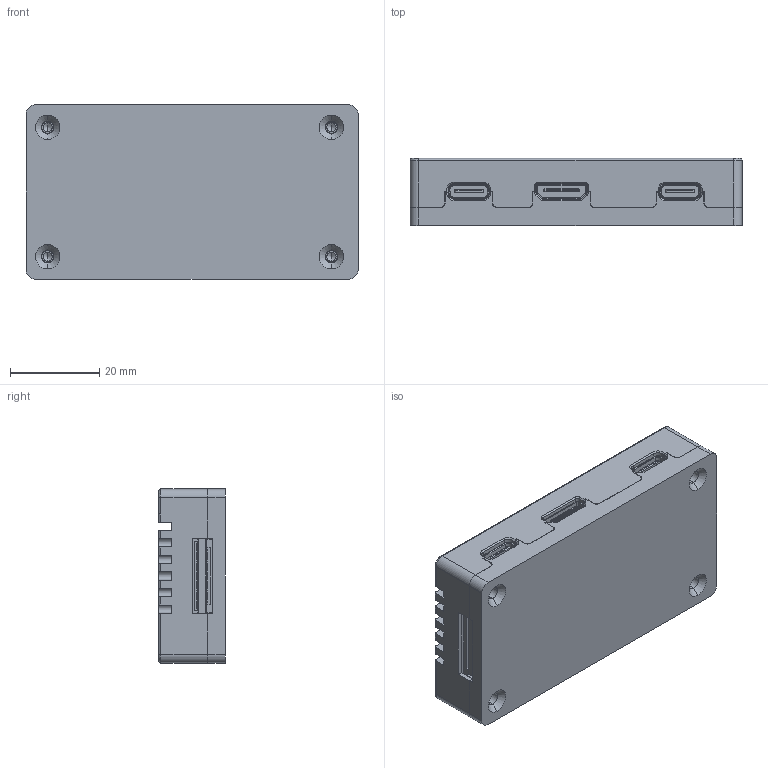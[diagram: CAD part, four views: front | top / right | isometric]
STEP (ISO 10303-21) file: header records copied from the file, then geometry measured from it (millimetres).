
FILE_DESCRIPTION (( 'STEP AP214' ), '1' );
FILE_NAME ('LubanCat Zero N.STEP', '2022-11-28T02:52:00', ( '' ), ( '' ), 'SwSTEP 2.0', 'SolidWorks 2021', '' );
FILE_SCHEMA (( 'AUTOMOTIVE_DESIGN' ));
Length unit declared in the file: millimetre
Products named in the file (17): RJ45厙諳 蚾饜极; x05a20l30t; 傻竘褐 1.1 錨璃; 散热盖（修改干涉位置20220801）; TSW-109-07-G-S 3pin; TYPE-C 譫釱 16P 泂え 錨璃; 酗竘褐 錨璃; TF 傻极湍潰聆PIN 3.75H 錨璃; RK3566郋え 詢僅0.9 錨璃; LubanCat Zero N PCB 錨璃; 000a71-05h4-111n1; x05a20l24t; 菁裔Z; LubanCat Zero N; User Library-HEADER 20X2; 沉板RJ45网口主体 零件; SD縐
Assembly tree (17 placements, depth 3):
  LubanCat Zero N
    LubanCat Zero N PCB 錨璃
    RJ45厙諳 蚾饜极
      沉板RJ45网口主体 零件
      傻竘褐 1.1 錨璃
      酗竘褐 錨璃
    TYPE-C 譫釱 16P 泂え 錨璃  x2
    000a71-05h4-111n1
    TF 傻极湍潰聆PIN 3.75H 錨璃
    SD縐
    TSW-109-07-G-S 3pin
    User Library-HEADER 20X2
    x05a20l24t
    x05a20l30t
    RK3566郋え 詢僅0.9 錨璃
    菁裔Z
    散热盖（修改干涉位置20220801）
Bounding box: 74.4 x 15 x 39 mm (x, y, z)
Volume: 26548.6 mm3; surface area: 32395.4 mm2
Topology: 25 solids, 25 shells, 4434 faces, 12393 edges, 8000 vertices
Faces by surface type: plane 3623, cylinder 671, bspline 87, cone 47, torus 6
Entity records: 156578 total; most frequent: CARTESIAN_POINT 30034, ORIENTED_EDGE 23996, DIRECTION 21581, EDGE_CURVE 11998, LINE 10411, VECTOR 10411, VERTEX_POINT 7746, AXIS2_PLACEMENT_3D 5585
